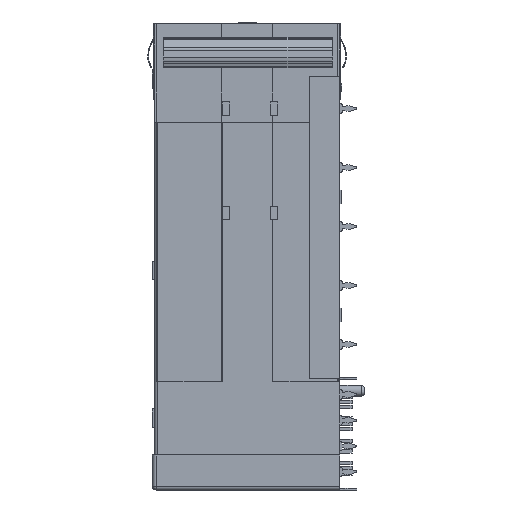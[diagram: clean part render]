
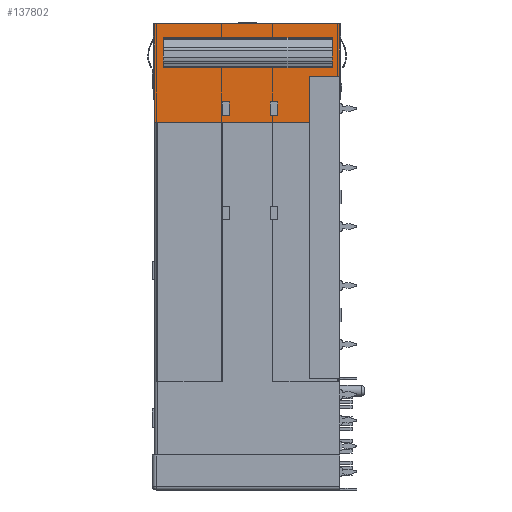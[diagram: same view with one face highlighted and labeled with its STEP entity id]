
A CAD part, left-side view. The second image highlights one B-rep face of the part: STEP entity #137802.
In plain terms, the highlighted planar face has unit normal (-1, 0, 0).
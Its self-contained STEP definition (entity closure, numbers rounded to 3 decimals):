
#2056 = DIRECTION ( 'NONE',  ( 0., -1., 0. ) ) ;
#2118 = CARTESIAN_POINT ( 'NONE',  ( -57.25, 25.1, 0. ) ) ;
#3186 = VERTEX_POINT ( 'NONE', #39454 ) ;
#4037 = ORIENTED_EDGE ( 'NONE', *, *, #181446, .F. ) ;
#5198 = CARTESIAN_POINT ( 'NONE',  ( -57.25, 8.45, -12.4 ) ) ;
#7674 = EDGE_CURVE ( 'NONE', #168766, #148184, #45740, .T. ) ;
#8132 = VECTOR ( 'NONE', #2056, 1000. ) ;
#8525 = LINE ( 'NONE', #19779, #150263 ) ;
#8901 = VECTOR ( 'NONE', #128996, 1000. ) ;
#10229 = CARTESIAN_POINT ( 'NONE',  ( -57.25, 23.95, -1.9 ) ) ;
#19779 = CARTESIAN_POINT ( 'NONE',  ( -57.25, 25.2, -13.4 ) ) ;
#19984 = DIRECTION ( 'NONE',  ( 1., 0., 0. ) ) ;
#20188 = VERTEX_POINT ( 'NONE', #87471 ) ;
#20309 = CARTESIAN_POINT ( 'NONE',  ( -57.25, 9.45, -10.6 ) ) ;
#22022 = CARTESIAN_POINT ( 'NONE',  ( -57.25, 0., -12.4 ) ) ;
#22845 = ORIENTED_EDGE ( 'NONE', *, *, #178600, .T. ) ;
#24450 = DIRECTION ( 'NONE',  ( 0., 0., -1. ) ) ;
#25120 = CARTESIAN_POINT ( 'NONE',  ( -57.25, 0.1, -7.1 ) ) ;
#25202 = CARTESIAN_POINT ( 'NONE',  ( -57.25, 9.45, -12.4 ) ) ;
#26953 = ORIENTED_EDGE ( 'NONE', *, *, #76933, .F. ) ;
#27894 = CARTESIAN_POINT ( 'NONE',  ( -57.25, 1.05, -2.181 ) ) ;
#36659 = VERTEX_POINT ( 'NONE', #25202 ) ;
#38135 = CARTESIAN_POINT ( 'NONE',  ( -57.25, 1.05, -1.9 ) ) ;
#39454 = CARTESIAN_POINT ( 'NONE',  ( -57.25, 4.1, -13.4 ) ) ;
#41241 = ORIENTED_EDGE ( 'NONE', *, *, #80841, .T. ) ;
#41981 = DIRECTION ( 'NONE',  ( 0., 0., 1. ) ) ;
#42150 = CARTESIAN_POINT ( 'NONE',  ( -57.25, 8.45, 0. ) ) ;
#42675 = EDGE_CURVE ( 'NONE', #131961, #133204, #120711, .T. ) ;
#43979 = CARTESIAN_POINT ( 'NONE',  ( -57.25, 25.1, 0. ) ) ;
#45456 = LINE ( 'NONE', #126790, #116312 ) ;
#45510 = CARTESIAN_POINT ( 'NONE',  ( -57.25, 25.1, -13.4 ) ) ;
#45740 = LINE ( 'NONE', #171061, #8132 ) ;
#46386 = LINE ( 'NONE', #163298, #117278 ) ;
#46473 = CARTESIAN_POINT ( 'NONE',  ( -57.25, 15., -10.6 ) ) ;
#47400 = VECTOR ( 'NONE', #126903, 1000. ) ;
#48529 = EDGE_CURVE ( 'NONE', #36659, #165018, #142666, .T. ) ;
#50789 = EDGE_CURVE ( 'NONE', #103920, #171159, #51841, .T. ) ;
#51784 = CARTESIAN_POINT ( 'NONE',  ( -57.25, 0., -12.4 ) ) ;
#51841 = LINE ( 'NONE', #155683, #160431 ) ;
#54013 = FACE_OUTER_BOUND ( 'NONE', #165953, .T. ) ;
#54030 = EDGE_CURVE ( 'NONE', #166204, #103920, #46386, .T. ) ;
#56100 = LINE ( 'NONE', #42150, #126934 ) ;
#56439 = DIRECTION ( 'NONE',  ( 0., 0., -1. ) ) ;
#56630 = CARTESIAN_POINT ( 'NONE',  ( -57.25, 4.1, -7.1 ) ) ;
#57657 = VECTOR ( 'NONE', #145020, 1000. ) ;
#59306 = ORIENTED_EDGE ( 'NONE', *, *, #168621, .T. ) ;
#61962 = DIRECTION ( 'NONE',  ( 0., 1., 0. ) ) ;
#63630 = ORIENTED_EDGE ( 'NONE', *, *, #48529, .T. ) ;
#66060 = DIRECTION ( 'NONE',  ( 0., 1., 0. ) ) ;
#66275 = VECTOR ( 'NONE', #172547, 1000. ) ;
#66509 = LINE ( 'NONE', #102246, #57657 ) ;
#67166 = DIRECTION ( 'NONE',  ( 0., 0., -1. ) ) ;
#67319 = VECTOR ( 'NONE', #175556, 1000. ) ;
#67958 = LINE ( 'NONE', #91550, #172093 ) ;
#68571 = VECTOR ( 'NONE', #24450, 1000. ) ;
#70192 = CARTESIAN_POINT ( 'NONE',  ( -57.25, 1.05, -1.9 ) ) ;
#70743 = LINE ( 'NONE', #73502, #66275 ) ;
#70825 = EDGE_CURVE ( 'NONE', #131912, #125676, #122695, .T. ) ;
#73502 = CARTESIAN_POINT ( 'NONE',  ( -57.25, 0., -10.6 ) ) ;
#76933 = EDGE_CURVE ( 'NONE', #144577, #182927, #177436, .T. ) ;
#80067 = LINE ( 'NONE', #22022, #113253 ) ;
#80841 = EDGE_CURVE ( 'NONE', #3186, #168766, #84198, .T. ) ;
#81955 = VERTEX_POINT ( 'NONE', #159262 ) ;
#84198 = LINE ( 'NONE', #114761, #8901 ) ;
#85095 = DIRECTION ( 'NONE',  ( 0., -1., 0. ) ) ;
#85499 = EDGE_CURVE ( 'NONE', #139435, #118446, #56100, .T. ) ;
#87471 = CARTESIAN_POINT ( 'NONE',  ( -57.25, 0.1, 0. ) ) ;
#89721 = ORIENTED_EDGE ( 'NONE', *, *, #70825, .T. ) ;
#89799 = EDGE_CURVE ( 'NONE', #148184, #20188, #45456, .T. ) ;
#90703 = CARTESIAN_POINT ( 'NONE',  ( -57.25, 9.45, 0. ) ) ;
#91550 = CARTESIAN_POINT ( 'NONE',  ( -57.25, 25.3, 0. ) ) ;
#91597 = FACE_BOUND ( 'NONE', #101511, .T. ) ;
#92074 = DIRECTION ( 'NONE',  ( 0., 0., 1. ) ) ;
#92930 = LINE ( 'NONE', #51784, #163845 ) ;
#94566 = CARTESIAN_POINT ( 'NONE',  ( -57.25, 23.95, -1.9 ) ) ;
#94638 = CARTESIAN_POINT ( 'NONE',  ( -57.25, 23.95, -2.181 ) ) ;
#97075 = EDGE_CURVE ( 'NONE', #20188, #131961, #67958, .T. ) ;
#97626 = VECTOR ( 'NONE', #179936, 1000. ) ;
#98874 = ORIENTED_EDGE ( 'NONE', *, *, #140274, .T. ) ;
#100765 = CARTESIAN_POINT ( 'NONE',  ( -57.25, 16., -10.6 ) ) ;
#101511 = EDGE_LOOP ( 'NONE', ( #63630, #98874, #104882, #181980 ) ) ;
#102246 = CARTESIAN_POINT ( 'NONE',  ( -57.25, 15., 0. ) ) ;
#102787 = ORIENTED_EDGE ( 'NONE', *, *, #89799, .T. ) ;
#103920 = VERTEX_POINT ( 'NONE', #100765 ) ;
#104753 = CARTESIAN_POINT ( 'NONE',  ( -57.25, 0., 0. ) ) ;
#104882 = ORIENTED_EDGE ( 'NONE', *, *, #85499, .T. ) ;
#106784 = DIRECTION ( 'NONE',  ( 0., 1., 0. ) ) ;
#108756 = ORIENTED_EDGE ( 'NONE', *, *, #97075, .T. ) ;
#112227 = LINE ( 'NONE', #10229, #183153 ) ;
#113253 = VECTOR ( 'NONE', #106784, 1000. ) ;
#114085 = CARTESIAN_POINT ( 'NONE',  ( -57.25, 1.05, -2.181 ) ) ;
#114761 = CARTESIAN_POINT ( 'NONE',  ( -57.25, 4.1, 0. ) ) ;
#116312 = VECTOR ( 'NONE', #41981, 1000. ) ;
#117278 = VECTOR ( 'NONE', #92074, 1000. ) ;
#118446 = VERTEX_POINT ( 'NONE', #5198 ) ;
#118970 = DIRECTION ( 'NONE',  ( 0., 0., -1. ) ) ;
#120711 = LINE ( 'NONE', #43979, #149555 ) ;
#122695 = LINE ( 'NONE', #27894, #47400 ) ;
#123474 = EDGE_CURVE ( 'NONE', #171159, #81955, #66509, .T. ) ;
#125676 = VERTEX_POINT ( 'NONE', #94638 ) ;
#126790 = CARTESIAN_POINT ( 'NONE',  ( -57.25, 0.1, 0. ) ) ;
#126903 = DIRECTION ( 'NONE',  ( 0., 1., 0. ) ) ;
#126934 = VECTOR ( 'NONE', #56439, 1000. ) ;
#128996 = DIRECTION ( 'NONE',  ( 0., 0., 1. ) ) ;
#129275 = FACE_BOUND ( 'NONE', #133406, .T. ) ;
#131049 = AXIS2_PLACEMENT_3D ( 'NONE', #104753, #19984, #118970 ) ;
#131912 = VERTEX_POINT ( 'NONE', #114085 ) ;
#131961 = VERTEX_POINT ( 'NONE', #2118 ) ;
#132404 = DIRECTION ( 'NONE',  ( 0., -1., 0. ) ) ;
#132602 = PLANE ( 'NONE',  #131049 ) ;
#133204 = VERTEX_POINT ( 'NONE', #45510 ) ;
#133406 = EDGE_LOOP ( 'NONE', ( #167774, #139246, #142419, #22845 ) ) ;
#135633 = FACE_BOUND ( 'NONE', #150414, .T. ) ;
#137802 = ADVANCED_FACE ( 'NONE', ( #91597, #129275, #135633, #54013 ), #132602, .F. ) ;
#139246 = ORIENTED_EDGE ( 'NONE', *, *, #50789, .T. ) ;
#139435 = VERTEX_POINT ( 'NONE', #179665 ) ;
#140274 = EDGE_CURVE ( 'NONE', #165018, #139435, #70743, .T. ) ;
#142419 = ORIENTED_EDGE ( 'NONE', *, *, #123474, .T. ) ;
#142666 = LINE ( 'NONE', #90703, #67319 ) ;
#144577 = VERTEX_POINT ( 'NONE', #70192 ) ;
#145020 = DIRECTION ( 'NONE',  ( 0., 0., -1. ) ) ;
#147271 = ORIENTED_EDGE ( 'NONE', *, *, #7674, .T. ) ;
#148184 = VERTEX_POINT ( 'NONE', #25120 ) ;
#148220 = ORIENTED_EDGE ( 'NONE', *, *, #42675, .T. ) ;
#149555 = VECTOR ( 'NONE', #157311, 1000. ) ;
#149723 = CARTESIAN_POINT ( 'NONE',  ( -57.25, 16., -12.4 ) ) ;
#150263 = VECTOR ( 'NONE', #132404, 1000. ) ;
#150414 = EDGE_LOOP ( 'NONE', ( #26953, #59306, #89721, #4037 ) ) ;
#155683 = CARTESIAN_POINT ( 'NONE',  ( -57.25, 0., -10.6 ) ) ;
#157311 = DIRECTION ( 'NONE',  ( 0., 0., -1. ) ) ;
#158119 = ORIENTED_EDGE ( 'NONE', *, *, #180682, .T. ) ;
#159262 = CARTESIAN_POINT ( 'NONE',  ( -57.25, 15., -12.4 ) ) ;
#160431 = VECTOR ( 'NONE', #85095, 1000. ) ;
#163298 = CARTESIAN_POINT ( 'NONE',  ( -57.25, 16., 0. ) ) ;
#163845 = VECTOR ( 'NONE', #66060, 1000. ) ;
#165018 = VERTEX_POINT ( 'NONE', #20309 ) ;
#165157 = EDGE_CURVE ( 'NONE', #118446, #36659, #92930, .T. ) ;
#165953 = EDGE_LOOP ( 'NONE', ( #41241, #147271, #102787, #108756, #148220, #158119 ) ) ;
#166204 = VERTEX_POINT ( 'NONE', #149723 ) ;
#166224 = CARTESIAN_POINT ( 'NONE',  ( -57.25, 1.05, -1.9 ) ) ;
#167774 = ORIENTED_EDGE ( 'NONE', *, *, #54030, .T. ) ;
#168621 = EDGE_CURVE ( 'NONE', #144577, #131912, #177108, .T. ) ;
#168766 = VERTEX_POINT ( 'NONE', #56630 ) ;
#171061 = CARTESIAN_POINT ( 'NONE',  ( -57.25, 0., -7.1 ) ) ;
#171159 = VERTEX_POINT ( 'NONE', #46473 ) ;
#172093 = VECTOR ( 'NONE', #61962, 1000. ) ;
#172547 = DIRECTION ( 'NONE',  ( 0., -1., 0. ) ) ;
#175556 = DIRECTION ( 'NONE',  ( 0., 0., 1. ) ) ;
#177108 = LINE ( 'NONE', #166224, #68571 ) ;
#177436 = LINE ( 'NONE', #38135, #97626 ) ;
#178600 = EDGE_CURVE ( 'NONE', #81955, #166204, #80067, .T. ) ;
#179665 = CARTESIAN_POINT ( 'NONE',  ( -57.25, 8.45, -10.6 ) ) ;
#179936 = DIRECTION ( 'NONE',  ( 0., 1., 0. ) ) ;
#180682 = EDGE_CURVE ( 'NONE', #133204, #3186, #8525, .T. ) ;
#181446 = EDGE_CURVE ( 'NONE', #182927, #125676, #112227, .T. ) ;
#181980 = ORIENTED_EDGE ( 'NONE', *, *, #165157, .T. ) ;
#182927 = VERTEX_POINT ( 'NONE', #94566 ) ;
#183153 = VECTOR ( 'NONE', #67166, 1000. ) ;
